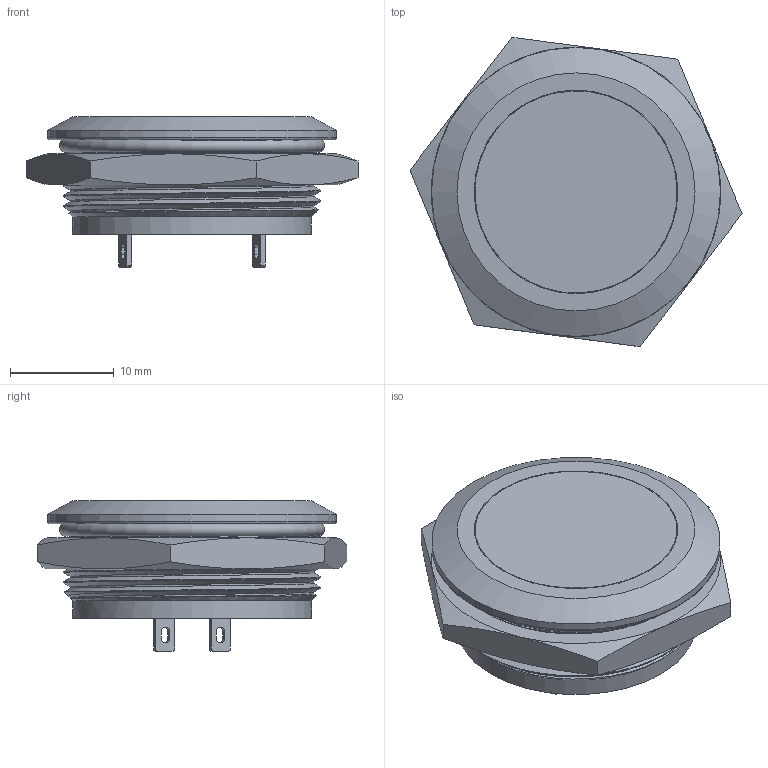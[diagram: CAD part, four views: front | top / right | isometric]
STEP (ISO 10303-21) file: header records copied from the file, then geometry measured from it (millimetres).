
FILE_DESCRIPTION(/* description */ (''),/* implementation_level */ '2;1');
FILE_NAME(/* name */ 'EJ25-221PM.stp',/* time_stamp */ '2019-11-08T14:10:58+08:00',/* author */ (''),/* organization */ (''),/* preprocessor_version */ 'ST-DEVELOPER v11',/* originating_system */ 'SIEMENS UGS NX 6.0',/* authorisation */ '');
FILE_SCHEMA (('CONFIG_CONTROL_DESIGN'));
Length unit declared in the file: millimetre
Products named in the file (8): JH8.683.034; JH7.740.176; JH7.810.262; JH8.382.077; JH7.370.456; JH8.382.344; JH8.382.283; EJ25-221PM
Assembly tree (12 placements, depth 2):
  EJ25-221PM
    JH8.382.283  x2
    JH8.382.344
    JH7.370.456  x2
    JH8.382.077  x2
    JH7.810.262  x2
    JH7.740.176  x2
    JH8.683.034
Bounding box: 31.94 x 29.76 x 14.45 mm (x, y, z)
Volume: 8111.8 mm3; surface area: 12893.2 mm2
Topology: 14 solids, 16 shells, 398 faces, 968 edges, 635 vertices
Faces by surface type: plane 249, cylinder 75, cone 36, extrusion 16, bspline 12, torus 10
Full cylindrical faces by diameter (mm): 3.8 x2, 4.2 x1, 7.8 x2, 13 x2, 16.05 x1, 16.5 x2, 19.45 x1, 19.5 x2, 19.6 x2, 20.2 x2, 22.1 x2, 22.2 x2, 23 x2, 27.8 x2
Entity records: 9269 total; most frequent: CARTESIAN_POINT 3719, ORIENTED_EDGE 912, DIRECTION 874, EDGE_CURVE 456, VERTEX_POINT 314, AXIS2_PLACEMENT_3D 308, EDGE_LOOP 263, VECTOR 258
